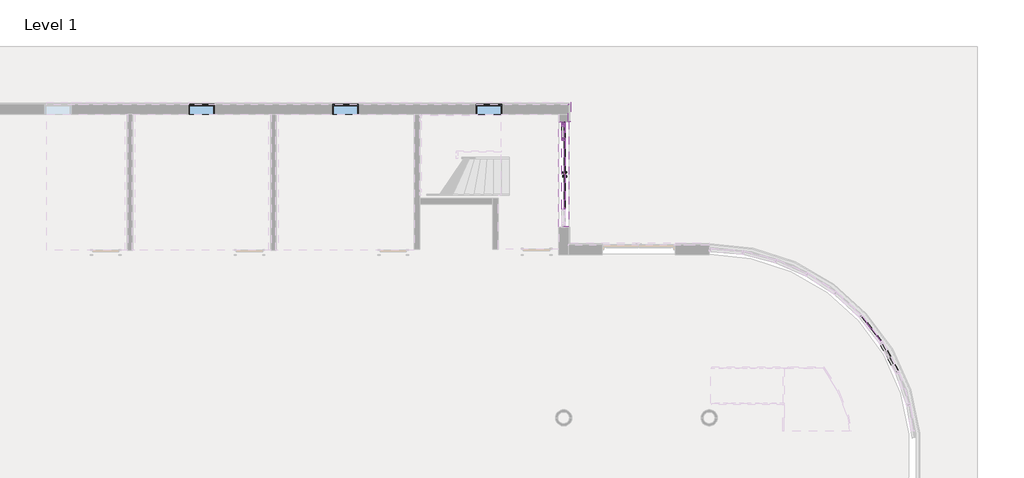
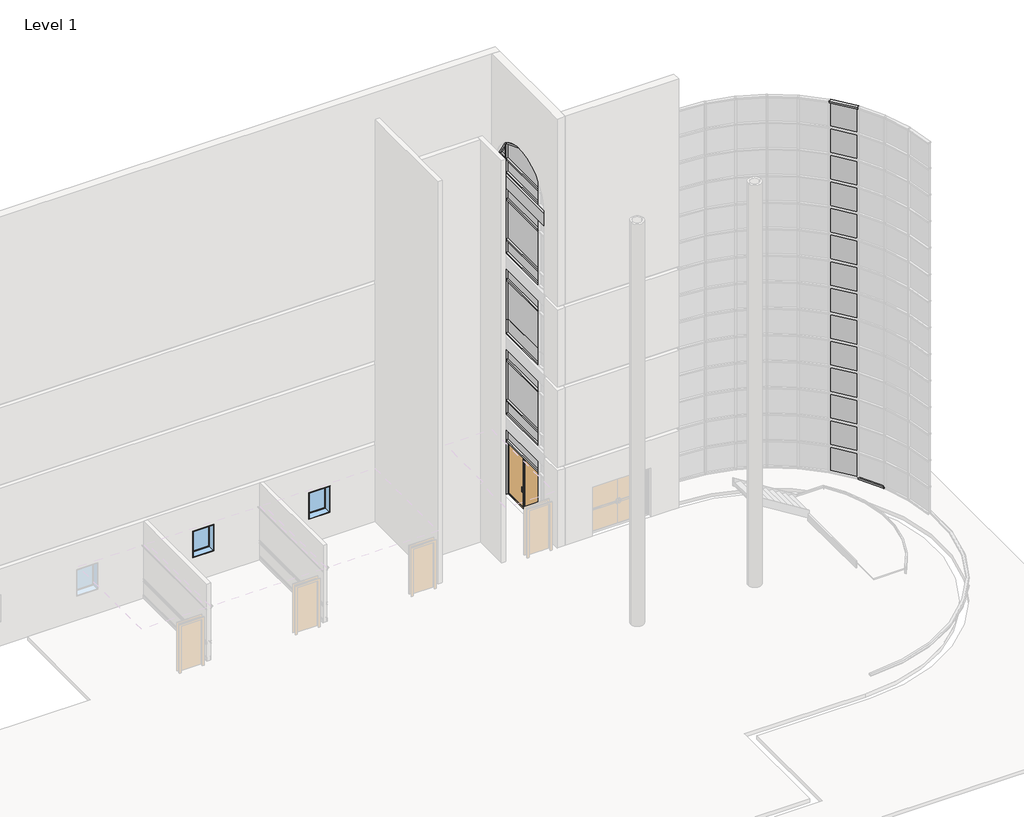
# One storey, part 12 of 20: 60 members, 40 plates, 3 proxies, 3 windows, 1 door.
"""IFC4 building model written with IfcOpenShell, lengths in millimetres."""

from ifc_helpers import new_model, si_unit, frame, origin, place, context, project, spatial, polyline, outline, extrude, transform, mapped, element, save
from components import door_curtain_wall_double_storefront_door_curtain_wall_double_88ba86d8, member_68fe8548, member_f0fea5a5, member_ee409385, member_caa35c07, member_51170729, member_d60e8053, member_89bfb2f9, member_aaa03826, member_c24abd12, member_55ed3d74, member_94fbf6e3, member_27758863, member_da55b54e, member_0b7646a3, member_dad99500, member_2fae0574, system_panel_glazed_da602fa6, system_panel_glazed_77fd207e, system_panel_glazed_0abf4587, system_panel_glazed_c8e71bd0, system_panel_glazed_bf223ca8, system_panel_glazed_20f89685, system_panel_glazed_orange_a178916c, system_panel_glazed_36969878, system_panel_glazed_a7a8c7fc, system_panel_glazed_38e9afd9, system_panel_glazed_db8a70c9, system_panel_glazed_89dc3443, system_panel_glazed_e97e1c8c, system_panel_glazed_0195c96e, window_15c49d37

model = new_model("IFC4")

# Units and contexts
model_context = context("Model", 3, world=origin())
ifc_project = project(units=[si_unit("LENGTHUNIT", "METRE", prefix="MILLI")], contexts=[model_context])

# Site, building, storey
site = spatial("IfcSite", under=ifc_project)
building = spatial("IfcBuilding", under=site)
storey = spatial("IfcBuildingStorey", under=building, Name="Level 1", Elevation=0.0)

# Proxies
placement = place(None, origin())
element("IfcBuildingElementProxy", 1, Name="Reveals", at=placement, inside=storey, context=model_context, shape_type="SweptSolid", body=[
    extrude(outline(polyline([(13035.7339721, 5418.9898319), (13127.8089721, 5418.9898319), (13127.8089721, 4876.0648319), (13035.7339721, 4783.9898319), (13035.7339721, 5418.9898319)])), frame((0.0, 0.0, 1625.6), z_axis=(0.0, 0.0, 1.0), x_axis=(1.0, 0.0, 0.0)), (0.0, 0.0, 1.0), 67.7333333),
    extrude(outline(polyline([(13035.7339721, 9660.7898319), (13127.8089721, 9752.8648319), (13127.8089721, 9076.5898319), (13035.7339721, 9076.5898319), (13035.7339721, 9660.7898319)])), frame((0.0, 0.0, 1625.6), z_axis=(0.0, 0.0, 1.0), x_axis=(1.0, 0.0, 0.0)), (0.0, 0.0, 1.0), 67.7333333),
])
element("IfcBuildingElementProxy", 2, Name="Reveals", at=placement, inside=storey, context=model_context, shape_type="SweptSolid", body=[
    extrude(outline(polyline([(13035.7339721, 5418.9898319), (13127.8089721, 5418.9898319), (13127.8089721, 4876.0648319), (13035.7339721, 4783.9898319), (13035.7339721, 5418.9898319)])), frame((0.0, 0.0, 2235.2), z_axis=(0.0, 0.0, 1.0), x_axis=(1.0, 0.0, 0.0)), (0.0, 0.0, 1.0), 67.7333333),
    extrude(outline(polyline([(13035.7339721, 9660.7898319), (13127.8089721, 9752.8648319), (13127.8089721, 9076.5898319), (13035.7339721, 9076.5898319), (13035.7339721, 9660.7898319)])), frame((0.0, 0.0, 2235.2), z_axis=(0.0, 0.0, 1.0), x_axis=(1.0, 0.0, 0.0)), (0.0, 0.0, 1.0), 67.7333333),
])
element("IfcBuildingElementProxy", 3, Name="Reveals", at=placement, inside=storey, context=model_context, shape_type="SweptSolid", body=[
    extrude(outline(polyline([(13035.7339721, 5418.9898319), (13127.8089721, 5418.9898319), (13127.8089721, 4876.0648319), (13035.7339721, 4783.9898319), (13035.7339721, 5418.9898319)])), frame((0.0, 0.0, 2844.8), z_axis=(0.0, 0.0, 1.0), x_axis=(1.0, 0.0, 0.0)), (0.0, 0.0, 1.0), 67.7333333),
    extrude(outline(polyline([(13035.7339721, 9660.7898319), (13127.8089721, 9752.8648319), (13127.8089721, 9076.5898319), (13035.7339721, 9076.5898319), (13035.7339721, 9660.7898319)])), frame((0.0, 0.0, 2844.8), z_axis=(0.0, 0.0, 1.0), x_axis=(1.0, 0.0, 0.0)), (0.0, 0.0, 1.0), 67.7333333),
])

# Door
door_curtain_wall_double_storefront_door_curtain_wall_double_shape = door_curtain_wall_double_storefront_door_curtain_wall_double_88ba86d8(model_context)
element("IfcDoor", 4, ObjectType="Door-Curtain-Wall-Double-Storefront : Door-Curtain-Wall-Double-Storefront", at=placement, inside=storey, context=model_context, shape_type="MappedRepresentation", body=[
    mapped(door_curtain_wall_double_storefront_door_curtain_wall_double_shape, transform((12884.9214721, 7247.7898319, 0.0), x_axis=(0.0, 1.0, 0.0), y_axis=(-1.0, 0.0, 0.0), z_axis=(0.0, 0.0, 1.0))),
])

# Members
member_shape = member_68fe8548(model_context)
element("IfcMember", 5, ObjectType="Rectangular Mullion : 2.5\" x 5\" rectangular", at=placement, inside=storey, context=model_context, shape_type="MappedRepresentation", body=[
    mapped(member_shape, transform((23894.9537437, 1423.9011049, 17983.2), x_axis=(0.0, 0.0, 1.0), y_axis=(-0.7891405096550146, -0.6142127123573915, 0.0), z_axis=(0.6142127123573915, -0.7891405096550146, 0.0))),
])
element("IfcMember", 6, ObjectType="Rectangular Mullion : 2.5\" x 5\" rectangular", at=placement, inside=storey, context=model_context, shape_type="MappedRepresentation", body=[
    mapped(member_shape, transform((23929.566327, 1370.9226021, 1092.2), x_axis=(0.0, 0.0, -1.0), y_axis=(-0.8794737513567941, -0.47594739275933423, 0.0), z_axis=(-0.47594739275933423, 0.8794737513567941, 0.0))),
])
member_2_shape = member_f0fea5a5(model_context)
element("IfcMember", 7, ObjectType="Rectangular Mullion : 2.5\" x 5\" rectangular", at=placement, inside=storey, context=model_context, shape_type="MappedRepresentation", body=[
    mapped(member_2_shape, transform((12884.9214721, 8466.9898319, 0.0), x_axis=(0.0, 1.0, 0.0), y_axis=(1.0, 0.0, 0.0), z_axis=(0.0, 0.0, -1.0))),
])
member_3_shape = member_ee409385(model_context)
element("IfcMember", 8, ObjectType="Rectangular Mullion : 2.5\" x 5\" rectangular", at=placement, inside=storey, context=model_context, shape_type="MappedRepresentation", body=[
    mapped(member_3_shape, transform((12884.9214721, 9076.5898319, 0.0), x_axis=(0.0, 1.0, 0.0), y_axis=(1.0, 0.0, 0.0), z_axis=(0.0, 0.0, -1.0))),
])
member_4_shape = member_caa35c07(model_context)
element("IfcMember", 9, ObjectType="Rectangular Mullion : 2.5\" x 5\" rectangular", at=placement, inside=storey, context=model_context, shape_type="MappedRepresentation", body=[
    mapped(member_4_shape, transform((12884.9214721, 8466.9898319, 15240.0), x_axis=(0.0, 1.0, 0.0), y_axis=(1.0, 0.0, 0.0), z_axis=(0.0, 0.0, -1.0))),
])
member_5_shape = member_51170729(model_context)
element("IfcMember", 10, ObjectType="Rectangular Mullion : 2.5\" x 5\" rectangular", at=placement, inside=storey, context=model_context, shape_type="MappedRepresentation", body=[
    mapped(member_5_shape, transform((12884.9214721, 8466.9898319, 13411.2), x_axis=(0.0, 1.0, 0.0), y_axis=(1.0, 0.0, 0.0), z_axis=(0.0, 0.0, -1.0))),
])
element("IfcMember", 11, ObjectType="Rectangular Mullion : 2.5\" x 5\" rectangular", at=placement, inside=storey, context=model_context, shape_type="MappedRepresentation", body=[
    mapped(member_5_shape, transform((12884.9214721, 8466.9898319, 9753.6), x_axis=(0.0, 1.0, 0.0), y_axis=(1.0, 0.0, 0.0), z_axis=(0.0, 0.0, -1.0))),
])
element("IfcMember", 12, ObjectType="Rectangular Mullion : 2.5\" x 5\" rectangular", at=placement, inside=storey, context=model_context, shape_type="MappedRepresentation", body=[
    mapped(member_5_shape, transform((12884.9214721, 8466.9898319, 6096.0), x_axis=(0.0, 1.0, 0.0), y_axis=(1.0, 0.0, 0.0), z_axis=(0.0, 0.0, -1.0))),
])
element("IfcMember", 13, ObjectType="Rectangular Mullion : 2.5\" x 5\" rectangular", at=placement, inside=storey, context=model_context, shape_type="MappedRepresentation", body=[
    mapped(member_5_shape, transform((12884.9214721, 8466.9898319, 2438.4), x_axis=(0.0, 1.0, 0.0), y_axis=(1.0, 0.0, 0.0), z_axis=(0.0, 0.0, -1.0))),
])
member_6_shape = member_d60e8053(model_context)
element("IfcMember", 14, ObjectType="Rectangular Mullion : 2.5\" x 5\" rectangular", at=placement, inside=storey, context=model_context, shape_type="MappedRepresentation", body=[
    mapped(member_6_shape, transform((12884.9214721, 8466.9898319, 11582.4), x_axis=(0.0, 1.0, 0.0), y_axis=(1.0, 0.0, 0.0), z_axis=(0.0, 0.0, -1.0))),
])
element("IfcMember", 15, ObjectType="Rectangular Mullion : 2.5\" x 5\" rectangular", at=placement, inside=storey, context=model_context, shape_type="MappedRepresentation", body=[
    mapped(member_6_shape, transform((12884.9214721, 8466.9898319, 4267.2), x_axis=(0.0, 1.0, 0.0), y_axis=(1.0, 0.0, 0.0), z_axis=(0.0, 0.0, -1.0))),
])
element("IfcMember", 16, ObjectType="Rectangular Mullion : 2.5\" x 5\" rectangular", at=placement, inside=storey, context=model_context, shape_type="MappedRepresentation", body=[
    mapped(member_6_shape, transform((12884.9214721, 8466.9898319, 7924.8), x_axis=(0.0, 1.0, 0.0), y_axis=(1.0, 0.0, 0.0), z_axis=(0.0, 0.0, -1.0))),
])
element("IfcMember", 17, ObjectType="Rectangular Mullion : 2.5\" x 5\" rectangular", at=placement, inside=storey, context=model_context, shape_type="MappedRepresentation", body=[
    mapped(member_5_shape, transform((12884.9214721, 8466.9898319, 14598.65), x_axis=(0.0, 1.0, 0.0), y_axis=(1.0, 0.0, 0.0), z_axis=(0.0, 0.0, -1.0))),
])
element("IfcMember", 18, ObjectType="Rectangular Mullion : 2.5\" x 5\" rectangular", at=placement, inside=storey, context=model_context, shape_type="MappedRepresentation", body=[
    mapped(member_5_shape, transform((12884.9214721, 8466.9898319, 10941.05), x_axis=(0.0, 1.0, 0.0), y_axis=(1.0, 0.0, 0.0), z_axis=(0.0, 0.0, -1.0))),
])
element("IfcMember", 19, ObjectType="Rectangular Mullion : 2.5\" x 5\" rectangular", at=placement, inside=storey, context=model_context, shape_type="MappedRepresentation", body=[
    mapped(member_5_shape, transform((12884.9214721, 8466.9898319, 3625.85), x_axis=(0.0, 1.0, 0.0), y_axis=(1.0, 0.0, 0.0), z_axis=(0.0, 0.0, -1.0))),
])
element("IfcMember", 20, ObjectType="Rectangular Mullion : 2.5\" x 5\" rectangular", at=placement, inside=storey, context=model_context, shape_type="MappedRepresentation", body=[
    mapped(member_5_shape, transform((12884.9214721, 8466.9898319, 7283.45), x_axis=(0.0, 1.0, 0.0), y_axis=(1.0, 0.0, 0.0), z_axis=(0.0, 0.0, -1.0))),
])
member_7_shape = member_89bfb2f9(model_context)
element("IfcMember", 21, ObjectType="Rectangular Mullion : 2.5\" x 5\" rectangular", at=placement, inside=storey, context=model_context, shape_type="MappedRepresentation", body=[
    mapped(member_7_shape, transform((12884.9214721, 8435.2398319, 2438.4), x_axis=(0.0, 0.0, 1.0), y_axis=(1.0, 0.0, 0.0), z_axis=(0.0, 1.0, 0.0))),
])
element("IfcMember", 22, ObjectType="Rectangular Mullion : 2.5\" x 5\" rectangular", at=placement, inside=storey, context=model_context, shape_type="MappedRepresentation", body=[
    mapped(member_7_shape, transform((12884.9214721, 8435.2398319, 4267.2), x_axis=(0.0, 0.0, 1.0), y_axis=(1.0, 0.0, 0.0), z_axis=(0.0, 1.0, 0.0))),
])
element("IfcMember", 23, ObjectType="Rectangular Mullion : 2.5\" x 5\" rectangular", at=placement, inside=storey, context=model_context, shape_type="MappedRepresentation", body=[
    mapped(member_7_shape, transform((12884.9214721, 8435.2398319, 6096.0), x_axis=(0.0, 0.0, 1.0), y_axis=(1.0, 0.0, 0.0), z_axis=(0.0, 1.0, 0.0))),
])
element("IfcMember", 24, ObjectType="Rectangular Mullion : 2.5\" x 5\" rectangular", at=placement, inside=storey, context=model_context, shape_type="MappedRepresentation", body=[
    mapped(member_7_shape, transform((12884.9214721, 8435.2398319, 7315.2), x_axis=(0.0, 0.0, 1.0), y_axis=(1.0, 0.0, 0.0), z_axis=(0.0, 1.0, 0.0))),
])
element("IfcMember", 25, ObjectType="Rectangular Mullion : 2.5\" x 5\" rectangular", at=placement, inside=storey, context=model_context, shape_type="MappedRepresentation", body=[
    mapped(member_7_shape, transform((12884.9214721, 8435.2398319, 6705.6), x_axis=(0.0, 0.0, 1.0), y_axis=(1.0, 0.0, 0.0), z_axis=(0.0, 1.0, 0.0))),
])
element("IfcMember", 26, ObjectType="Rectangular Mullion : 2.5\" x 5\" rectangular", at=placement, inside=storey, context=model_context, shape_type="MappedRepresentation", body=[
    mapped(member_7_shape, transform((12884.9214721, 8435.2398319, 3657.6), x_axis=(0.0, 0.0, 1.0), y_axis=(1.0, 0.0, 0.0), z_axis=(0.0, 1.0, 0.0))),
])
element("IfcMember", 27, ObjectType="Rectangular Mullion : 2.5\" x 5\" rectangular", at=placement, inside=storey, context=model_context, shape_type="MappedRepresentation", body=[
    mapped(member_7_shape, transform((12884.9214721, 8435.2398319, 3048.0), x_axis=(0.0, 0.0, 1.0), y_axis=(1.0, 0.0, 0.0), z_axis=(0.0, 1.0, 0.0))),
])
element("IfcMember", 28, ObjectType="Rectangular Mullion : 2.5\" x 5\" rectangular", at=placement, inside=storey, context=model_context, shape_type="MappedRepresentation", body=[
    mapped(member_7_shape, transform((12884.9214721, 8435.2398319, 9753.6), x_axis=(0.0, 0.0, 1.0), y_axis=(1.0, 0.0, 0.0), z_axis=(0.0, 1.0, 0.0))),
])
element("IfcMember", 29, ObjectType="Rectangular Mullion : 2.5\" x 5\" rectangular", at=placement, inside=storey, context=model_context, shape_type="MappedRepresentation", body=[
    mapped(member_7_shape, transform((12884.9214721, 8435.2398319, 10363.2), x_axis=(0.0, 0.0, 1.0), y_axis=(1.0, 0.0, 0.0), z_axis=(0.0, 1.0, 0.0))),
])
element("IfcMember", 30, ObjectType="Rectangular Mullion : 2.5\" x 5\" rectangular", at=placement, inside=storey, context=model_context, shape_type="MappedRepresentation", body=[
    mapped(member_7_shape, transform((12884.9214721, 8435.2398319, 10972.8), x_axis=(0.0, 0.0, 1.0), y_axis=(1.0, 0.0, 0.0), z_axis=(0.0, 1.0, 0.0))),
])
element("IfcMember", 31, ObjectType="Rectangular Mullion : 2.5\" x 5\" rectangular", at=placement, inside=storey, context=model_context, shape_type="MappedRepresentation", body=[
    mapped(member_7_shape, transform((12884.9214721, 8435.2398319, 11582.4), x_axis=(0.0, 0.0, 1.0), y_axis=(1.0, 0.0, 0.0), z_axis=(0.0, 1.0, 0.0))),
])
element("IfcMember", 32, ObjectType="Rectangular Mullion : 2.5\" x 5\" rectangular", at=placement, inside=storey, context=model_context, shape_type="MappedRepresentation", body=[
    mapped(member_7_shape, transform((12884.9214721, 8435.2398319, 13411.2), x_axis=(0.0, 0.0, 1.0), y_axis=(1.0, 0.0, 0.0), z_axis=(0.0, 1.0, 0.0))),
])
element("IfcMember", 33, ObjectType="Rectangular Mullion : 2.5\" x 5\" rectangular", at=placement, inside=storey, context=model_context, shape_type="MappedRepresentation", body=[
    mapped(member_7_shape, transform((12884.9214721, 8435.2398319, 14020.8), x_axis=(0.0, 0.0, 1.0), y_axis=(1.0, 0.0, 0.0), z_axis=(0.0, 1.0, 0.0))),
])
element("IfcMember", 34, ObjectType="Rectangular Mullion : 2.5\" x 5\" rectangular", at=placement, inside=storey, context=model_context, shape_type="MappedRepresentation", body=[
    mapped(member_7_shape, transform((12884.9214721, 8435.2398319, 14630.4), x_axis=(0.0, 0.0, 1.0), y_axis=(1.0, 0.0, 0.0), z_axis=(0.0, 1.0, 0.0))),
])
element("IfcMember", 35, ObjectType="Rectangular Mullion : 2.5\" x 5\" rectangular", at=placement, inside=storey, context=model_context, shape_type="MappedRepresentation", body=[
    mapped(member_7_shape, transform((12884.9214721, 8435.2398319, 15240.0), x_axis=(0.0, 0.0, 1.0), y_axis=(1.0, 0.0, 0.0), z_axis=(0.0, 1.0, 0.0))),
])
member_8_shape = member_aaa03826(model_context)
element("IfcMember", 36, ObjectType="Rectangular Mullion : 2.5\" x 5\" rectangular", at=placement, inside=storey, context=model_context, shape_type="MappedRepresentation", body=[
    mapped(member_8_shape, transform((12884.9214721, 9013.0898319, 2438.4), x_axis=(0.0, 0.0, 1.0), y_axis=(1.0, 0.0, 0.0), z_axis=(0.0, 1.0, 0.0))),
])
element("IfcMember", 37, ObjectType="Rectangular Mullion : 2.5\" x 5\" rectangular", at=placement, inside=storey, context=model_context, shape_type="MappedRepresentation", body=[
    mapped(member_8_shape, transform((12884.9214721, 9013.0898319, 4267.2), x_axis=(0.0, 0.0, 1.0), y_axis=(1.0, 0.0, 0.0), z_axis=(0.0, 1.0, 0.0))),
])
element("IfcMember", 38, ObjectType="Rectangular Mullion : 2.5\" x 5\" rectangular", at=placement, inside=storey, context=model_context, shape_type="MappedRepresentation", body=[
    mapped(member_8_shape, transform((12884.9214721, 9013.0898319, 6096.0), x_axis=(0.0, 0.0, 1.0), y_axis=(1.0, 0.0, 0.0), z_axis=(0.0, 1.0, 0.0))),
])
element("IfcMember", 39, ObjectType="Rectangular Mullion : 2.5\" x 5\" rectangular", at=placement, inside=storey, context=model_context, shape_type="MappedRepresentation", body=[
    mapped(member_8_shape, transform((12884.9214721, 9013.0898319, 7315.2), x_axis=(0.0, 0.0, 1.0), y_axis=(1.0, 0.0, 0.0), z_axis=(0.0, 1.0, 0.0))),
])
element("IfcMember", 40, ObjectType="Rectangular Mullion : 2.5\" x 5\" rectangular", at=placement, inside=storey, context=model_context, shape_type="MappedRepresentation", body=[
    mapped(member_8_shape, transform((12884.9214721, 9013.0898319, 6705.6), x_axis=(0.0, 0.0, 1.0), y_axis=(1.0, 0.0, 0.0), z_axis=(0.0, 1.0, 0.0))),
])
element("IfcMember", 41, ObjectType="Rectangular Mullion : 2.5\" x 5\" rectangular", at=placement, inside=storey, context=model_context, shape_type="MappedRepresentation", body=[
    mapped(member_8_shape, transform((12884.9214721, 9013.0898319, 3657.6), x_axis=(0.0, 0.0, 1.0), y_axis=(1.0, 0.0, 0.0), z_axis=(0.0, 1.0, 0.0))),
])
element("IfcMember", 42, ObjectType="Rectangular Mullion : 2.5\" x 5\" rectangular", at=placement, inside=storey, context=model_context, shape_type="MappedRepresentation", body=[
    mapped(member_8_shape, transform((12884.9214721, 9013.0898319, 3048.0), x_axis=(0.0, 0.0, 1.0), y_axis=(1.0, 0.0, 0.0), z_axis=(0.0, 1.0, 0.0))),
])
element("IfcMember", 43, ObjectType="Rectangular Mullion : 2.5\" x 5\" rectangular", at=placement, inside=storey, context=model_context, shape_type="MappedRepresentation", body=[
    mapped(member_8_shape, transform((12884.9214721, 9013.0898319, 9753.6), x_axis=(0.0, 0.0, 1.0), y_axis=(1.0, 0.0, 0.0), z_axis=(0.0, 1.0, 0.0))),
])
element("IfcMember", 44, ObjectType="Rectangular Mullion : 2.5\" x 5\" rectangular", at=placement, inside=storey, context=model_context, shape_type="MappedRepresentation", body=[
    mapped(member_8_shape, transform((12884.9214721, 9013.0898319, 10363.2), x_axis=(0.0, 0.0, 1.0), y_axis=(1.0, 0.0, 0.0), z_axis=(0.0, 1.0, 0.0))),
])
element("IfcMember", 45, ObjectType="Rectangular Mullion : 2.5\" x 5\" rectangular", at=placement, inside=storey, context=model_context, shape_type="MappedRepresentation", body=[
    mapped(member_8_shape, transform((12884.9214721, 9013.0898319, 10972.8), x_axis=(0.0, 0.0, 1.0), y_axis=(1.0, 0.0, 0.0), z_axis=(0.0, 1.0, 0.0))),
])
element("IfcMember", 46, ObjectType="Rectangular Mullion : 2.5\" x 5\" rectangular", at=placement, inside=storey, context=model_context, shape_type="MappedRepresentation", body=[
    mapped(member_8_shape, transform((12884.9214721, 9013.0898319, 11582.4), x_axis=(0.0, 0.0, 1.0), y_axis=(1.0, 0.0, 0.0), z_axis=(0.0, 1.0, 0.0))),
])
element("IfcMember", 47, ObjectType="Rectangular Mullion : 2.5\" x 5\" rectangular", at=placement, inside=storey, context=model_context, shape_type="MappedRepresentation", body=[
    mapped(member_8_shape, transform((12884.9214721, 9013.0898319, 13411.2), x_axis=(0.0, 0.0, 1.0), y_axis=(1.0, 0.0, 0.0), z_axis=(0.0, 1.0, 0.0))),
])
element("IfcMember", 48, ObjectType="Rectangular Mullion : 2.5\" x 5\" rectangular", at=placement, inside=storey, context=model_context, shape_type="MappedRepresentation", body=[
    mapped(member_8_shape, transform((12884.9214721, 9013.0898319, 14020.8), x_axis=(0.0, 0.0, 1.0), y_axis=(1.0, 0.0, 0.0), z_axis=(0.0, 1.0, 0.0))),
])
member_9_shape = member_c24abd12(model_context)
element("IfcMember", 49, ObjectType="Rectangular Mullion : 2.5\" x 5\" rectangular", at=placement, inside=storey, context=model_context, shape_type="MappedRepresentation", body=[
    mapped(member_9_shape, transform((12884.9214721, 9076.5898319, 14630.4), x_axis=(0.0, 0.0, 1.0), y_axis=(1.0, 0.0, 0.0), z_axis=(0.0, 1.0, 0.0))),
])
member_10_shape = member_55ed3d74(model_context)
element("IfcMember", 50, ObjectType="Rectangular Mullion : 2.5\" x 5\" rectangular", at=placement, inside=storey, context=model_context, shape_type="MappedRepresentation", body=[
    mapped(member_10_shape, transform((12884.9214721, 8971.9990072, 15240.0), x_axis=(0.0, 0.0, 1.0), y_axis=(1.0, 0.0, 0.0), z_axis=(0.0, 1.0, 0.0))),
])
member_11_shape = member_94fbf6e3(model_context)
element("IfcMember", 51, ObjectType="Rectangular Mullion : 2.5\" x 5\" rectangular", at=placement, inside=storey, context=model_context, shape_type="MappedRepresentation", body=[
    mapped(member_11_shape, transform((12884.9214721, 8971.9990072, 15240.0), x_axis=(0.0, 0.9428090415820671, 0.33333333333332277), y_axis=(1.0, 0.0, 0.0), z_axis=(0.0, 0.3333333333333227, -0.942809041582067))),
])
member_12_shape = member_27758863(model_context)
element("IfcMember", 52, ObjectType="Rectangular Mullion : 2.5\" x 5\" rectangular", at=placement, inside=storey, context=model_context, shape_type="MappedRepresentation", body=[
    mapped(member_12_shape, transform((12884.9214721, 8466.9898319, 15993.5070391), x_axis=(0.0, 0.6666666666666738, 0.7453559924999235), y_axis=(1.0, 0.0, 0.0), z_axis=(0.0, 0.7453559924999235, -0.6666666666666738))),
])
member_13_shape = member_da55b54e(model_context)
element("IfcMember", 53, ObjectType="Rectangular Mullion : 2.5\" x 5\" rectangular", at=placement, inside=storey, context=model_context, shape_type="MappedRepresentation", body=[
    mapped(member_13_shape, transform((12884.9214721, 9076.5898319, 14630.4), x_axis=(0.0, 1.0, 0.0), y_axis=(1.0, 0.0, 0.0), z_axis=(0.0, 0.0, -1.0))),
])
member_14_shape = member_0b7646a3(model_context)
element("IfcMember", 54, ObjectType="Rectangular Mullion : 2.5\" x 5\" rectangular", at=placement, inside=storey, context=model_context, shape_type="MappedRepresentation", body=[
    mapped(member_14_shape, transform((12884.9214721, 8498.7398319, 0.0), x_axis=(0.0, 0.0, -1.0), y_axis=(1.0, 0.0, 0.0), z_axis=(0.0, -1.0, 0.0))),
])
member_15_shape = member_dad99500(model_context)
element("IfcMember", 55, ObjectType="Rectangular Mullion : 2.5\" x 5\" rectangular", at=placement, inside=storey, context=model_context, shape_type="MappedRepresentation", body=[
    mapped(member_15_shape, transform((12884.9214721, 9076.5898319, 13411.2), x_axis=(0.0, 1.0, 0.0), y_axis=(1.0, 0.0, 0.0), z_axis=(0.0, 0.0, -1.0))),
])
element("IfcMember", 56, ObjectType="Rectangular Mullion : 2.5\" x 5\" rectangular", at=placement, inside=storey, context=model_context, shape_type="MappedRepresentation", body=[
    mapped(member_15_shape, transform((12884.9214721, 9076.5898319, 9753.6), x_axis=(0.0, 1.0, 0.0), y_axis=(1.0, 0.0, 0.0), z_axis=(0.0, 0.0, -1.0))),
])
element("IfcMember", 57, ObjectType="Rectangular Mullion : 2.5\" x 5\" rectangular", at=placement, inside=storey, context=model_context, shape_type="MappedRepresentation", body=[
    mapped(member_15_shape, transform((12884.9214721, 9076.5898319, 6096.0), x_axis=(0.0, 1.0, 0.0), y_axis=(1.0, 0.0, 0.0), z_axis=(0.0, 0.0, -1.0))),
])
element("IfcMember", 58, ObjectType="Rectangular Mullion : 2.5\" x 5\" rectangular", at=placement, inside=storey, context=model_context, shape_type="MappedRepresentation", body=[
    mapped(member_15_shape, transform((12884.9214721, 9076.5898319, 2438.4), x_axis=(0.0, 1.0, 0.0), y_axis=(1.0, 0.0, 0.0), z_axis=(0.0, 0.0, -1.0))),
])
member_16_shape = member_2fae0574(model_context)
element("IfcMember", 59, ObjectType="Rectangular Mullion : 2.5\" x 5\" rectangular", at=placement, inside=storey, context=model_context, shape_type="MappedRepresentation", body=[
    mapped(member_16_shape, transform((12884.9214721, 9076.5898319, 11582.4), x_axis=(0.0, 1.0, 0.0), y_axis=(1.0, 0.0, 0.0), z_axis=(0.0, 0.0, -1.0))),
])
element("IfcMember", 60, ObjectType="Rectangular Mullion : 2.5\" x 5\" rectangular", at=placement, inside=storey, context=model_context, shape_type="MappedRepresentation", body=[
    mapped(member_16_shape, transform((12884.9214721, 9076.5898319, 4267.2), x_axis=(0.0, 1.0, 0.0), y_axis=(1.0, 0.0, 0.0), z_axis=(0.0, 0.0, -1.0))),
])
element("IfcMember", 61, ObjectType="Rectangular Mullion : 2.5\" x 5\" rectangular", at=placement, inside=storey, context=model_context, shape_type="MappedRepresentation", body=[
    mapped(member_15_shape, transform((12884.9214721, 9076.5898319, 10941.05), x_axis=(0.0, 1.0, 0.0), y_axis=(1.0, 0.0, 0.0), z_axis=(0.0, 0.0, -1.0))),
])
element("IfcMember", 62, ObjectType="Rectangular Mullion : 2.5\" x 5\" rectangular", at=placement, inside=storey, context=model_context, shape_type="MappedRepresentation", body=[
    mapped(member_15_shape, transform((12884.9214721, 9076.5898319, 3625.85), x_axis=(0.0, 1.0, 0.0), y_axis=(1.0, 0.0, 0.0), z_axis=(0.0, 0.0, -1.0))),
])
element("IfcMember", 63, ObjectType="Rectangular Mullion : 2.5\" x 5\" rectangular", at=placement, inside=storey, context=model_context, shape_type="MappedRepresentation", body=[
    mapped(member_16_shape, transform((12884.9214721, 9076.5898319, 7924.8), x_axis=(0.0, 1.0, 0.0), y_axis=(1.0, 0.0, 0.0), z_axis=(0.0, 0.0, -1.0))),
])
element("IfcMember", 64, ObjectType="Rectangular Mullion : 2.5\" x 5\" rectangular", at=placement, inside=storey, context=model_context, shape_type="MappedRepresentation", body=[
    mapped(member_15_shape, transform((12884.9214721, 9076.5898319, 7283.45), x_axis=(0.0, 1.0, 0.0), y_axis=(1.0, 0.0, 0.0), z_axis=(0.0, 0.0, -1.0))),
])

# Plates
element("IfcPlate", 65, ObjectType="Exterior - Brick on Mtl. Stud", at=placement, inside=storey, context=model_context, shape_type="SweptSolid", body=[
    extrude(outline(polyline([(13061.1339721, 9076.5898319), (13061.1339721, 5418.9898319), (12708.7089721, 5418.9898319), (12708.7089721, 9076.5898319), (13061.1339721, 9076.5898319)])), frame((0.0, 0.0, 14052.55), z_axis=(0.0, 0.0, 1.0), x_axis=(1.0, 0.0, 0.0)), (0.0, 0.0, 1.0), 546.1),
])
system_panel_glazed_shape = system_panel_glazed_da602fa6(model_context)
element("IfcPlate", 66, ObjectType="System Panel : Glazed", at=placement, inside=storey, context=model_context, shape_type="MappedRepresentation", body=[
    mapped(system_panel_glazed_shape, transform((23552.3563867, 1864.0701985, 1155.7), x_axis=(0.614212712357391, -0.789140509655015, 0.0), y_axis=(0.789140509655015, 0.614212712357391, 0.0), z_axis=(0.0, 0.0, 1.0))),
])
element("IfcPlate", 67, ObjectType="System Panel : Glazed", at=placement, inside=storey, context=model_context, shape_type="MappedRepresentation", body=[
    mapped(system_panel_glazed_shape, transform((23552.3563867, 1864.0701985, 16808.45), x_axis=(0.614212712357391, -0.789140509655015, 0.0), y_axis=(0.789140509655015, 0.614212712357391, 0.0), z_axis=(0.0, 0.0, 1.0))),
])
system_panel_glazed_2_shape = system_panel_glazed_77fd207e(model_context)
element("IfcPlate", 68, ObjectType="System Panel : Glazed", at=placement, inside=storey, context=model_context, shape_type="MappedRepresentation", body=[
    mapped(system_panel_glazed_2_shape, transform((23552.3563867, 1864.0701985, 2330.45), x_axis=(0.614212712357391, -0.789140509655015, 0.0), y_axis=(0.789140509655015, 0.614212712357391, 0.0), z_axis=(0.0, 0.0, 1.0))),
])
element("IfcPlate", 69, ObjectType="System Panel : Glazed", at=placement, inside=storey, context=model_context, shape_type="MappedRepresentation", body=[
    mapped(system_panel_glazed_2_shape, transform((23552.3563867, 1864.0701985, 3536.95), x_axis=(0.614212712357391, -0.789140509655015, 0.0), y_axis=(0.789140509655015, 0.614212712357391, 0.0), z_axis=(0.0, 0.0, 1.0))),
])
element("IfcPlate", 70, ObjectType="System Panel : Glazed", at=placement, inside=storey, context=model_context, shape_type="MappedRepresentation", body=[
    mapped(system_panel_glazed_2_shape, transform((23552.3563867, 1864.0701985, 4743.45), x_axis=(0.614212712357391, -0.789140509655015, 0.0), y_axis=(0.789140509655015, 0.614212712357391, 0.0), z_axis=(0.0, 0.0, 1.0))),
])
element("IfcPlate", 71, ObjectType="System Panel : Glazed", at=placement, inside=storey, context=model_context, shape_type="MappedRepresentation", body=[
    mapped(system_panel_glazed_2_shape, transform((23552.3563867, 1864.0701985, 5949.95), x_axis=(0.614212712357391, -0.789140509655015, 0.0), y_axis=(0.789140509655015, 0.614212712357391, 0.0), z_axis=(0.0, 0.0, 1.0))),
])
element("IfcPlate", 72, ObjectType="System Panel : Glazed", at=placement, inside=storey, context=model_context, shape_type="MappedRepresentation", body=[
    mapped(system_panel_glazed_2_shape, transform((23552.3563867, 1864.0701985, 7156.45), x_axis=(0.614212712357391, -0.789140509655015, 0.0), y_axis=(0.789140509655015, 0.614212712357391, 0.0), z_axis=(0.0, 0.0, 1.0))),
])
element("IfcPlate", 73, ObjectType="System Panel : Glazed", at=placement, inside=storey, context=model_context, shape_type="MappedRepresentation", body=[
    mapped(system_panel_glazed_2_shape, transform((23552.3563867, 1864.0701985, 8362.95), x_axis=(0.614212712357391, -0.789140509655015, 0.0), y_axis=(0.789140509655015, 0.614212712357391, 0.0), z_axis=(0.0, 0.0, 1.0))),
])
element("IfcPlate", 74, ObjectType="System Panel : Glazed", at=placement, inside=storey, context=model_context, shape_type="MappedRepresentation", body=[
    mapped(system_panel_glazed_2_shape, transform((23552.3563867, 1864.0701985, 9569.45), x_axis=(0.614212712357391, -0.789140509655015, 0.0), y_axis=(0.789140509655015, 0.614212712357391, 0.0), z_axis=(0.0, 0.0, 1.0))),
])
element("IfcPlate", 75, ObjectType="System Panel : Glazed", at=placement, inside=storey, context=model_context, shape_type="MappedRepresentation", body=[
    mapped(system_panel_glazed_2_shape, transform((23552.3563867, 1864.0701985, 10775.95), x_axis=(0.614212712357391, -0.789140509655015, 0.0), y_axis=(0.789140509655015, 0.614212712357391, 0.0), z_axis=(0.0, 0.0, 1.0))),
])
element("IfcPlate", 76, ObjectType="System Panel : Glazed", at=placement, inside=storey, context=model_context, shape_type="MappedRepresentation", body=[
    mapped(system_panel_glazed_2_shape, transform((23552.3563867, 1864.0701985, 11982.45), x_axis=(0.614212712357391, -0.789140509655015, 0.0), y_axis=(0.789140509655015, 0.614212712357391, 0.0), z_axis=(0.0, 0.0, 1.0))),
])
element("IfcPlate", 77, ObjectType="System Panel : Glazed", at=placement, inside=storey, context=model_context, shape_type="MappedRepresentation", body=[
    mapped(system_panel_glazed_2_shape, transform((23552.3563867, 1864.0701985, 13188.95), x_axis=(0.614212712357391, -0.789140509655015, 0.0), y_axis=(0.789140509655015, 0.614212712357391, 0.0), z_axis=(0.0, 0.0, 1.0))),
])
element("IfcPlate", 78, ObjectType="System Panel : Glazed", at=placement, inside=storey, context=model_context, shape_type="MappedRepresentation", body=[
    mapped(system_panel_glazed_2_shape, transform((23552.3563867, 1864.0701985, 14395.45), x_axis=(0.614212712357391, -0.789140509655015, 0.0), y_axis=(0.789140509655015, 0.614212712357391, 0.0), z_axis=(0.0, 0.0, 1.0))),
])
element("IfcPlate", 79, ObjectType="System Panel : Glazed", at=placement, inside=storey, context=model_context, shape_type="MappedRepresentation", body=[
    mapped(system_panel_glazed_2_shape, transform((23552.3563867, 1864.0701985, 15601.95), x_axis=(0.614212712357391, -0.789140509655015, 0.0), y_axis=(0.789140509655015, 0.614212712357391, 0.0), z_axis=(0.0, 0.0, 1.0))),
])
system_panel_glazed_3_shape = system_panel_glazed_0abf4587(model_context)
element("IfcPlate", 80, ObjectType="System Panel : Glazed", at=placement, inside=storey, context=model_context, shape_type="MappedRepresentation", body=[
    mapped(system_panel_glazed_3_shape, transform((12884.9214721, 8755.9148319, 63.5), x_axis=(0.0, 1.0, 0.0), y_axis=(-1.0, 0.0, 0.0), z_axis=(0.0, 0.0, 1.0))),
])
system_panel_glazed_4_shape = system_panel_glazed_c8e71bd0(model_context)
element("IfcPlate", 81, ObjectType="System Panel : Glazed", at=placement, inside=storey, context=model_context, shape_type="MappedRepresentation", body=[
    mapped(system_panel_glazed_4_shape, transform((12884.9214721, 8755.9148319, 3689.35), x_axis=(0.0, 1.0, 0.0), y_axis=(-1.0, 0.0, 0.0), z_axis=(0.0, 0.0, 1.0))),
])
element("IfcPlate", 82, ObjectType="System Panel : Glazed", at=placement, inside=storey, context=model_context, shape_type="MappedRepresentation", body=[
    mapped(system_panel_glazed_4_shape, transform((12884.9214721, 8755.9148319, 11004.55), x_axis=(0.0, 1.0, 0.0), y_axis=(-1.0, 0.0, 0.0), z_axis=(0.0, 0.0, 1.0))),
])
element("IfcPlate", 83, ObjectType="System Panel : Glazed", at=placement, inside=storey, context=model_context, shape_type="MappedRepresentation", body=[
    mapped(system_panel_glazed_4_shape, transform((12884.9214721, 8755.9148319, 2470.15), x_axis=(0.0, 1.0, 0.0), y_axis=(-1.0, 0.0, 0.0), z_axis=(0.0, 0.0, 1.0))),
])
element("IfcPlate", 84, ObjectType="System Panel : Glazed", at=placement, inside=storey, context=model_context, shape_type="MappedRepresentation", body=[
    mapped(system_panel_glazed_4_shape, transform((12884.9214721, 8755.9148319, 6127.75), x_axis=(0.0, 1.0, 0.0), y_axis=(-1.0, 0.0, 0.0), z_axis=(0.0, 0.0, 1.0))),
])
element("IfcPlate", 85, ObjectType="System Panel : Glazed", at=placement, inside=storey, context=model_context, shape_type="MappedRepresentation", body=[
    mapped(system_panel_glazed_4_shape, transform((12884.9214721, 8755.9148319, 9785.35), x_axis=(0.0, 1.0, 0.0), y_axis=(-1.0, 0.0, 0.0), z_axis=(0.0, 0.0, 1.0))),
])
element("IfcPlate", 86, ObjectType="System Panel : Glazed", at=placement, inside=storey, context=model_context, shape_type="MappedRepresentation", body=[
    mapped(system_panel_glazed_4_shape, transform((12884.9214721, 8755.9148319, 13442.95), x_axis=(0.0, 1.0, 0.0), y_axis=(-1.0, 0.0, 0.0), z_axis=(0.0, 0.0, 1.0))),
])
system_panel_glazed_5_shape = system_panel_glazed_bf223ca8(model_context)
element("IfcPlate", 87, ObjectType="System Panel : Glazed", at=placement, inside=storey, context=model_context, shape_type="MappedRepresentation", body=[
    mapped(system_panel_glazed_5_shape, transform((12884.9214721, 8755.9148319, 7346.95), x_axis=(0.0, 1.0, 0.0), y_axis=(-1.0, 0.0, 0.0), z_axis=(0.0, 0.0, 1.0))),
])
system_panel_glazed_6_shape = system_panel_glazed_20f89685(model_context)
element("IfcPlate", 88, ObjectType="System Panel : Glazed", at=placement, inside=storey, context=model_context, shape_type="MappedRepresentation", body=[
    mapped(system_panel_glazed_6_shape, transform((12884.9214721, 8755.7720596, 14662.15), x_axis=(0.0, 1.0, 0.0), y_axis=(-1.0, 0.0, 0.0), z_axis=(0.0, 0.0, 1.0))),
])
system_panel_glazed_orange_shape = system_panel_glazed_orange_a178916c(model_context)
element("IfcPlate", 89, ObjectType="System Panel : Glazed", at=placement, inside=storey, context=model_context, shape_type="MappedRepresentation", body=[
    mapped(system_panel_glazed_orange_shape, transform((12884.9214721, 7247.7898319, 3689.35), x_axis=(0.0, 1.0, 0.0), y_axis=(-1.0, 0.0, 0.0), z_axis=(0.0, 0.0, 1.0))),
])
element("IfcPlate", 90, ObjectType="System Panel : Glazed", at=placement, inside=storey, context=model_context, shape_type="MappedRepresentation", body=[
    mapped(system_panel_glazed_orange_shape, transform((12884.9214721, 7247.7898319, 11004.55), x_axis=(0.0, 1.0, 0.0), y_axis=(-1.0, 0.0, 0.0), z_axis=(0.0, 0.0, 1.0))),
])
element("IfcPlate", 91, ObjectType="System Panel : Glazed", at=placement, inside=storey, context=model_context, shape_type="MappedRepresentation", body=[
    mapped(system_panel_glazed_orange_shape, transform((12884.9214721, 7247.7898319, 14662.15), x_axis=(0.0, 1.0, 0.0), y_axis=(-1.0, 0.0, 0.0), z_axis=(0.0, 0.0, 1.0))),
])
element("IfcPlate", 92, ObjectType="System Panel : Glazed", at=placement, inside=storey, context=model_context, shape_type="MappedRepresentation", body=[
    mapped(system_panel_glazed_orange_shape, transform((12884.9214721, 7247.7898319, 6127.75), x_axis=(0.0, 1.0, 0.0), y_axis=(-1.0, 0.0, 0.0), z_axis=(0.0, 0.0, 1.0))),
])
element("IfcPlate", 93, ObjectType="System Panel : Glazed", at=placement, inside=storey, context=model_context, shape_type="MappedRepresentation", body=[
    mapped(system_panel_glazed_orange_shape, transform((12884.9214721, 7247.7898319, 9785.35), x_axis=(0.0, 1.0, 0.0), y_axis=(-1.0, 0.0, 0.0), z_axis=(0.0, 0.0, 1.0))),
])
element("IfcPlate", 94, ObjectType="System Panel : Glazed", at=placement, inside=storey, context=model_context, shape_type="MappedRepresentation", body=[
    mapped(system_panel_glazed_orange_shape, transform((12884.9214721, 7247.7898319, 13442.95), x_axis=(0.0, 1.0, 0.0), y_axis=(-1.0, 0.0, 0.0), z_axis=(0.0, 0.0, 1.0))),
])
system_panel_glazed_7_shape = system_panel_glazed_36969878(model_context)
element("IfcPlate", 95, ObjectType="System Panel : Glazed", at=placement, inside=storey, context=model_context, shape_type="MappedRepresentation", body=[
    mapped(system_panel_glazed_7_shape, transform((12884.9214721, 7247.7898319, 7346.95), x_axis=(0.0, 1.0, 0.0), y_axis=(-1.0, 0.0, 0.0), z_axis=(0.0, 0.0, 1.0))),
])
system_panel_glazed_8_shape = system_panel_glazed_a7a8c7fc(model_context)
element("IfcPlate", 96, ObjectType="System Panel : Glazed", at=placement, inside=storey, context=model_context, shape_type="MappedRepresentation", body=[
    mapped(system_panel_glazed_8_shape, transform((12884.9214721, 8755.9148319, 4298.95), x_axis=(0.0, 1.0, 0.0), y_axis=(-1.0, 0.0, 0.0), z_axis=(0.0, 0.0, 1.0))),
])
element("IfcPlate", 97, ObjectType="System Panel : Glazed", at=placement, inside=storey, context=model_context, shape_type="MappedRepresentation", body=[
    mapped(system_panel_glazed_8_shape, transform((12884.9214721, 8755.9148319, 11614.15), x_axis=(0.0, 1.0, 0.0), y_axis=(-1.0, 0.0, 0.0), z_axis=(0.0, 0.0, 1.0))),
])
system_panel_glazed_9_shape = system_panel_glazed_38e9afd9(model_context)
element("IfcPlate", 98, ObjectType="System Panel : Glazed", at=placement, inside=storey, context=model_context, shape_type="MappedRepresentation", body=[
    mapped(system_panel_glazed_9_shape, transform((12884.9214721, 7247.7898319, 4298.95), x_axis=(0.0, 1.0, 0.0), y_axis=(-1.0, 0.0, 0.0), z_axis=(0.0, 0.0, 1.0))),
])
element("IfcPlate", 99, ObjectType="System Panel : Glazed", at=placement, inside=storey, context=model_context, shape_type="MappedRepresentation", body=[
    mapped(system_panel_glazed_9_shape, transform((12884.9214721, 7247.7898319, 11614.15), x_axis=(0.0, 1.0, 0.0), y_axis=(-1.0, 0.0, 0.0), z_axis=(0.0, 0.0, 1.0))),
])
system_panel_glazed_10_shape = system_panel_glazed_db8a70c9(model_context)
element("IfcPlate", 100, ObjectType="System Panel : Glazed", at=placement, inside=storey, context=model_context, shape_type="MappedRepresentation", body=[
    mapped(system_panel_glazed_10_shape, transform((12884.9214721, 8755.9148319, 7924.8), x_axis=(0.0, 1.0, 0.0), y_axis=(-1.0, 0.0, 0.0), z_axis=(0.0, 0.0, 1.0))),
])
system_panel_glazed_11_shape = system_panel_glazed_89dc3443(model_context)
element("IfcPlate", 101, ObjectType="System Panel : Glazed", at=placement, inside=storey, context=model_context, shape_type="MappedRepresentation", body=[
    mapped(system_panel_glazed_11_shape, transform((12884.9214721, 7247.7898319, 7924.8), x_axis=(0.0, 1.0, 0.0), y_axis=(-1.0, 0.0, 0.0), z_axis=(0.0, 0.0, 1.0))),
])
system_panel_glazed_12_shape = system_panel_glazed_e97e1c8c(model_context)
element("IfcPlate", 102, ObjectType="System Panel : Glazed", at=placement, inside=storey, context=model_context, shape_type="MappedRepresentation", body=[
    mapped(system_panel_glazed_12_shape, transform((12884.9214721, 7247.7898319, 15271.75), x_axis=(0.0, 1.0, 0.0), y_axis=(-1.0, 0.0, 0.0), z_axis=(0.0, 0.0, 1.0))),
])
system_panel_glazed_13_shape = system_panel_glazed_0195c96e(model_context)
element("IfcPlate", 103, ObjectType="System Panel : Glazed", at=placement, inside=storey, context=model_context, shape_type="MappedRepresentation", body=[
    mapped(system_panel_glazed_13_shape, transform((12884.9214721, 8695.6020905, 15271.75), x_axis=(0.0, 1.0, 0.0), y_axis=(-1.0, 0.0, 0.0), z_axis=(0.0, 0.0, 1.0))),
])
element("IfcPlate", 104, ObjectType="System Panel : Glazed Orange", at=placement, inside=storey, context=model_context, shape_type="MappedRepresentation", body=[
    mapped(system_panel_glazed_orange_shape, transform((12884.9214721, 7247.7898319, 2470.15), x_axis=(0.0, 1.0, 0.0), y_axis=(-1.0, 0.0, 0.0), z_axis=(0.0, 0.0, 1.0))),
])

# Windows
window_shape = window_15c49d37(model_context)
element("IfcWindow", 105, ObjectType="Fixed : 36\" x 48\"", at=placement, inside=storey, context=model_context, shape_type="MappedRepresentation", body=[
    mapped(window_shape, transform((355.3131388, 9509.9773319, 177.8), x_axis=(1.0, 0.0, 0.0), y_axis=(0.0, 1.0, 0.0), z_axis=(0.0, 0.0, 1.0))),
])
element("IfcWindow", 106, ObjectType="Fixed : 36\" x 48\"", at=placement, inside=storey, context=model_context, shape_type="MappedRepresentation", body=[
    mapped(window_shape, transform((5347.4714721, 9509.9773319, 177.8), x_axis=(1.0, 0.0, 0.0), y_axis=(0.0, 1.0, 0.0), z_axis=(0.0, 0.0, 1.0))),
])
element("IfcWindow", 107, ObjectType="Fixed : 36\" x 48\"", at=placement, inside=storey, context=model_context, shape_type="MappedRepresentation", body=[
    mapped(window_shape, transform((10334.0735554, 9509.9773319, 177.8), x_axis=(1.0, 0.0, 0.0), y_axis=(0.0, 1.0, 0.0), z_axis=(0.0, 0.0, 1.0))),
])

save(model, "model.ifc")
